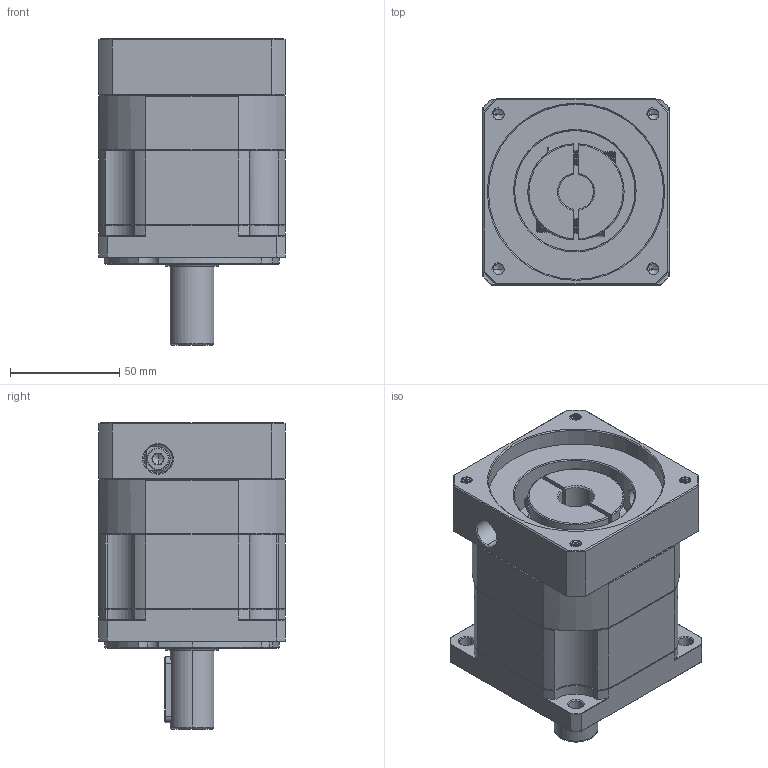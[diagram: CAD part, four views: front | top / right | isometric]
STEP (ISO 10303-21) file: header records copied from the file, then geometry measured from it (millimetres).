
FILE_DESCRIPTION (( 'STEP AP214' ), '1' );
FILE_NAME ('ZB090-D20-L1-P2-16-80-100-M6.step', '2023-08-18T12:09:06', ( '' ), ( '' ), 'SwSTEP 2.0', 'SolidWorks 2016', '' );
FILE_SCHEMA (( 'AUTOMOTIVE_DESIGN' ));
Length unit declared in the file: millimetre
Products named in the file (1): ZB090-D20-L1-P2-16-80-100-M6
Bounding box: 85 x 85 x 140 mm (x, y, z)
Volume: 598905.1 mm3; surface area: 86310.8 mm2
Topology: 4 solids, 5 shells, 2219 faces, 5885 edges, 3751 vertices
Faces by surface type: plane 1066, bspline 397, cylinder 396, cone 333, torus 27
Entity records: 120599 total; most frequent: CARTESIAN_POINT 44536, ORIENTED_EDGE 11726, DIRECTION 9169, EDGE_CURVE 5863, VERTEX_POINT 3751, VECTOR 3723, LINE 3723, AXIS2_PLACEMENT_3D 2723
